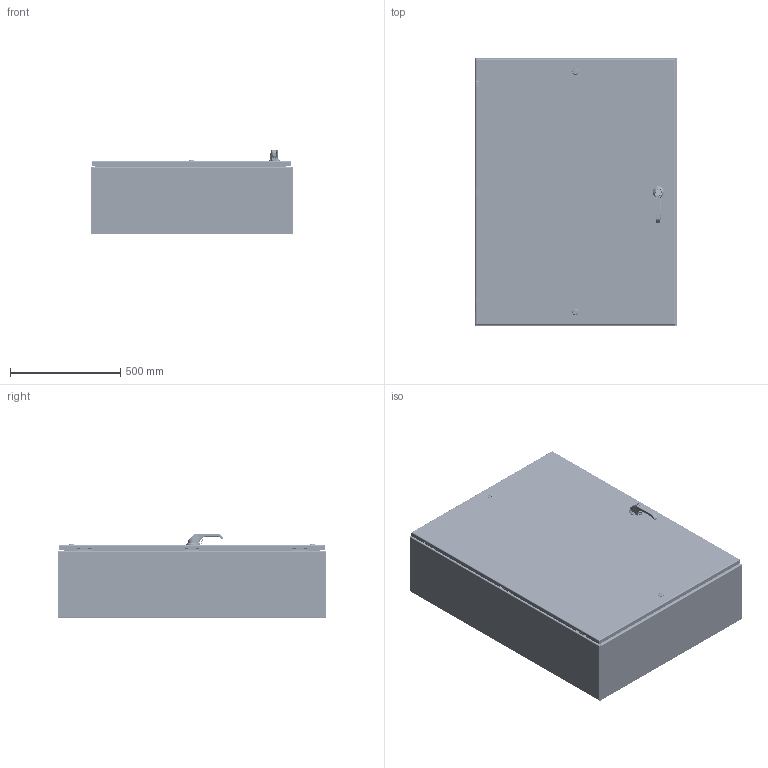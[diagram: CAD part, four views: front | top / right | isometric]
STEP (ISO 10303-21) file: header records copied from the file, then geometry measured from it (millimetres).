
FILE_DESCRIPTION((''),'2;1');
FILE_NAME('MODEL-300_ASM','2026-04-02T15:57:49',('richards'),('SAGINAW CONTROL & ENGINEERING'),'CREO PARAMETRIC BY PTC INC, 2021284','CREO PARAMETRIC BY PTC INC, 2021284','');
FILE_SCHEMA(('AUTOMOTIVE_DESIGN { 1 0 10303 214 1 1 1 1 }'));
Length unit declared in the file: inch
Products named in the file (64): MODEL-300-BDY; MODEL-300-TP; MODEL-300-BTM; MODEL-300-DR; 100837; 100882; 111267; 125597; 100794_SHAFT; 100794_INSERT; 100794_CAM; 100794_NUT; 100794_SCREW; 100794_ASM; MODEL-300-ROD-UPR; 128146; 128145; 128144; 102482; MODEL-300-ROD-UPR_ASM; 128143; 112504; MODEL-300-ROD-LWR; MODEL-300-ROD-LWR_ASM; 100955_SCREW_MTG; 100955_PADLOCK_CATCH; 100955_SCREW_LARGE; 100955_INSERT_SHAFT; 100955_INSERT_PKH; 100955_GASKET; 100955_O-RING; 100955_BASE; 100955_SPRING; 100955_HANDLE; 100955_CAM_SHAFT; 100955_HANDLE_ASM; 100955_CAM_ADAPTER; 100955_EARTH_NUT; 100955_FLANGE_NUT; 100955_CAM_NUT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
Assembly tree (116 placements, depth 5):
  MODEL-300_ASM
    MODEL-300-BDY
    MODEL-300-TP
    MODEL-300-BTM
    MODEL-300-DOOR-ASSY_ASM
      MODEL-300-DR
      100837  x5
      100882  x4
      111267
      125597
      100794_ASM  x2
        100794_SHAFT
        100794_INSERT
        100794_CAM
        100794_NUT
        100794_SCREW
      MODEL-300-ROD-UPR_ASM
        MODEL-300-ROD-UPR
        128146
        128145
        128144
        102482  x2
      128143  x2
      112504  x2
      MODEL-300-ROD-LWR_ASM
        MODEL-300-ROD-LWR
        128146
        128145
        128144
        102482  x2
      100955_ASM
        100955_SCREW_MTG
        100955_PADLOCK_CATCH
        100955_SCREW_LARGE  x2
        100955_INSERT_SHAFT
        100955_INSERT_PKH
        100955_GASKET
        100955_O-RING
        100955_BASE
        100955_SPRING
        100955_HANDLE_ASM
          100955_HANDLE
          100955_CAM_SHAFT
        100955_CAM_ADAPTER
        100955_EARTH_NUT
        100955_FLANGE_NUT
        100955_CAM_NUT
        100955_KEY_INSERT
        100955_SPRING_CAM
        100955_TORSION_SPRING
        100955_SCREW_INSERT
      102237_ASM
        102237
        100030  x2
      MODEL-300-POUR-GSKT
      126392_ASM  x3
        126392
      126395  x3
      102483  x9
      101389  x3
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Bounding box: 914.4 x 1219.2 x 383.3 mm (x, y, z)
Volume: 11473928.6 mm3; surface area: 10219169.4 mm2
Topology: 117 solids, 117 shells, 10094 faces, 25260 edges, 15425 vertices
Faces by surface type: plane 3749, cylinder 2669, bspline 1726, torus 905, cone 689, sphere 326, extrusion 30
Entity records: 357705 total; most frequent: CARTESIAN_POINT 143589, ORIENTED_EDGE 33296, DIRECTION 30085, PRESENTATION_STYLE_ASSIGNMENT 16888, EDGE_CURVE 16648, STYLED_ITEM 16606, CURVE_STYLE 16486, AXIS2_PLACEMENT_3D 11104
